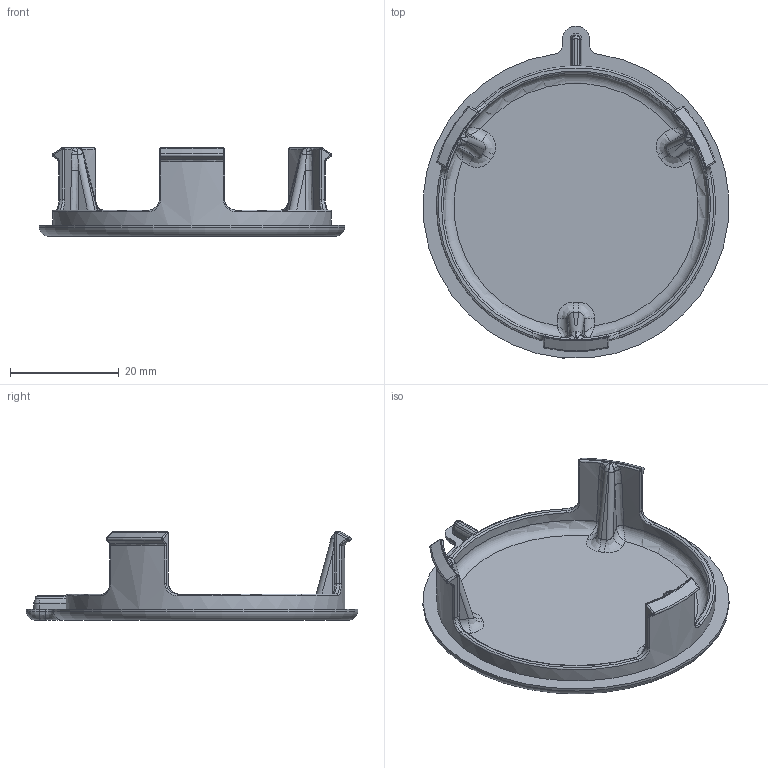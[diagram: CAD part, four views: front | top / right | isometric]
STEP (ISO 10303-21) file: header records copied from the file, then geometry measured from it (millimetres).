
FILE_DESCRIPTION((''),'2;1');
FILE_NAME('FRISBEE_GESAMT_ASM','2026-04-08T19:30:48',('m.kloibhofer'),(''),'CREO PARAMETRIC BY PTC INC, 2025093','CREO PARAMETRIC BY PTC INC, 2025093','');
FILE_SCHEMA(('AUTOMOTIVE_DESIGN { 1 0 10303 214 1 1 1 1 }'));
Length unit declared in the file: millimetre
Products named in the file (3): FISBEE_INSERT_PRINTABLES_1; FISBEE_INSERT_PRINTABLES_2; FRISBEE_GESAMT_ASM
Assembly tree (2 placements, depth 2):
  FRISBEE_GESAMT_ASM
    FISBEE_INSERT_PRINTABLES_1
    FISBEE_INSERT_PRINTABLES_2
Bounding box: 56.19 x 61.05 x 16.22 mm (x, y, z)
Volume: 4273.9 mm3; surface area: 8336.1 mm2
Topology: 2 solids, 2 shells, 255 faces, 566 edges, 316 vertices
Faces by surface type: bspline 86, cylinder 61, plane 53, torus 24, sphere 18, cone 7, revolution 4, extrusion 2
Entity records: 13907 total; most frequent: CARTESIAN_POINT 5162, ORIENTED_EDGE 1132, DIRECTION 956, PRESENTATION_STYLE_ASSIGNMENT 829, STYLED_ITEM 829, CURVE_STYLE 572, EDGE_CURVE 566, AXIS2_PLACEMENT_3D 390
